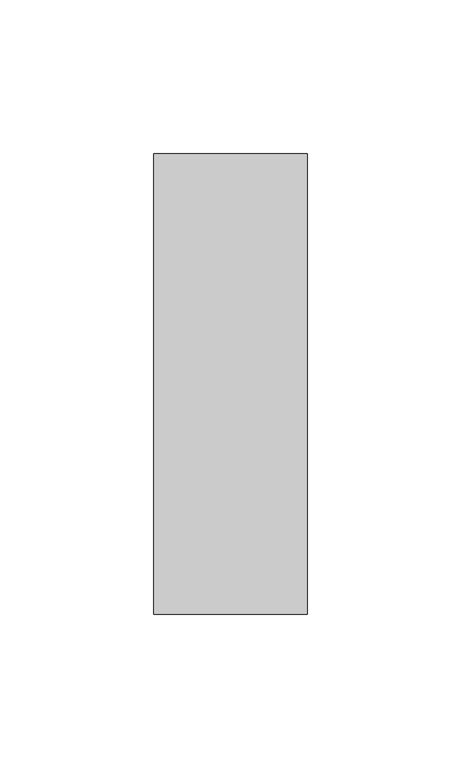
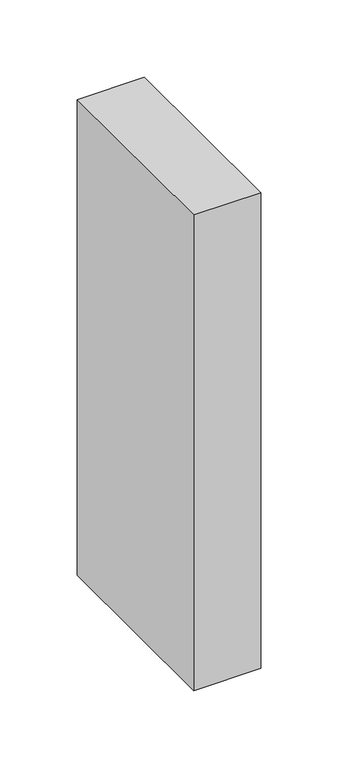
"""IFC4 building model written with IfcOpenShell, lengths in millimetres: member geometry, Прямоугольный импост : 50х150мм."""

from ifc_helpers import new_model, si_unit, frame, origin, place, context, project, spatial, polyline, outline, extrude, source, transform, mapped, element, save


def member_66c8288a(model_context):
    return source(origin(), model_context, "Body", "SweptSolid", [
        extrude(outline(polyline([(0.0, 75.0), (0.0, -75.0), (-50.0, -75.0), (-50.0, 75.0), (0.0, 75.0)])), frame((0.0, 0.0, -375.0), z_axis=(0.0, 0.0, 1.0), x_axis=(1.0, 0.0, 0.0)), (0.0, 0.0, 1.0), 375.0),
    ])


if __name__ == "__main__":
    model = new_model("IFC4")
    model_context = context("Model", 3, world=origin())
    ifc_project = project(units=[si_unit("LENGTHUNIT", "METRE", prefix="MILLI")], contexts=[model_context])
    site = spatial("IfcSite", under=ifc_project)
    building = spatial("IfcBuilding", under=site)
    placement = place(None, origin())
    member_shape = member_66c8288a(model_context)
    element("IfcMember", 1, ObjectType="Прямоугольный импост : 50х150мм", at=placement, inside=building, context=model_context, shape_type="MappedRepresentation", body=[
        mapped(member_shape, transform((0.0, 0.0, 0.0), x_axis=(1.0, 0.0, 0.0), y_axis=(0.0, 1.0, 0.0), z_axis=(0.0, 0.0, 1.0))),
    ])
    save(model, "model.ifc")
